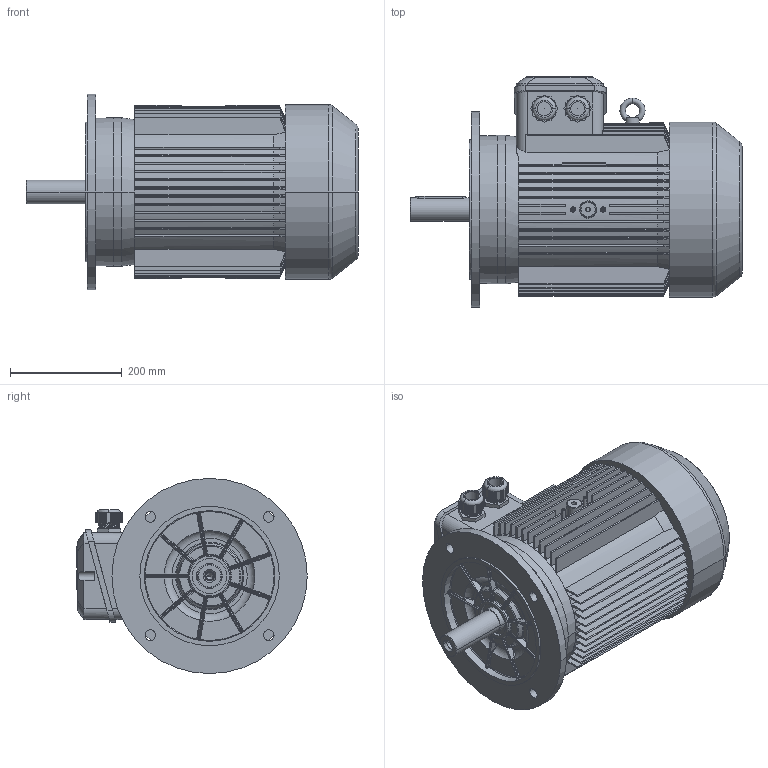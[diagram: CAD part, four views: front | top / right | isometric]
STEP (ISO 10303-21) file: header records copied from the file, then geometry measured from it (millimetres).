
FILE_DESCRIPTION (( 'STEP AP214' ), '1' );
FILE_NAME ('MAP160M4A IM3041 A350 FF300.STEP', '2021-01-15T10:46:40', ( '' ), ( '' ), 'SwSTEP 2.0', 'SolidWorks 2018', '' );
FILE_SCHEMA (( 'AUTOMOTIVE_DESIGN' ));
Products named in the file (1): MAP160M4A IM3041 A350 FF300
Bounding box: 595 x 413 x 350 mm (x, y, z)
Volume: 31718321.1 mm3; surface area: 1506396.4 mm2
Topology: 1 solids, 8 shells, 1693 faces, 4499 edges, 2842 vertices
Faces by surface type: plane 990, cylinder 290, bspline 156, cone 94, torus 93, sphere 70
Entity records: 69531 total; most frequent: CARTESIAN_POINT 29012, ORIENTED_EDGE 8922, DIRECTION 7789, EDGE_CURVE 4461, VERTEX_POINT 2842, LINE 2725, VECTOR 2725, AXIS2_PLACEMENT_3D 2532
